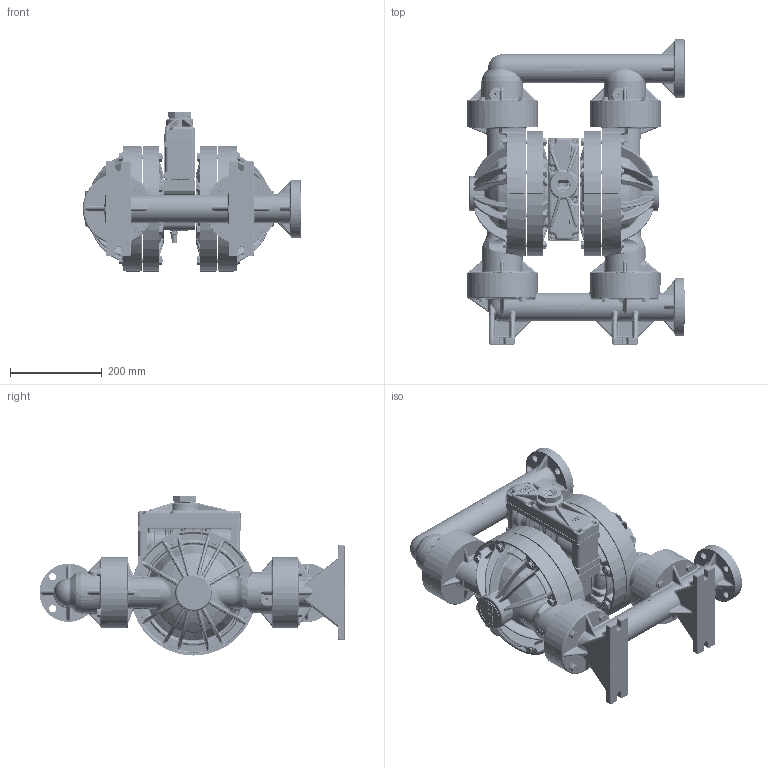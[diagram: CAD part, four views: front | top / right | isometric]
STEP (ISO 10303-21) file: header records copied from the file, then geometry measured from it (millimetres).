
FILE_DESCRIPTION((''),'2;1');
FILE_NAME('PS400_ADV_PLASTIC_POL_SW0001','2014-10-13T',('nathan.hale'),(''),'PRO/ENGINEER BY PARAMETRIC TECHNOLOGY CORPORATION, 2011180','PRO/ENGINEER BY PARAMETRIC TECHNOLOGY CORPORATION, 2011180','');
FILE_SCHEMA(('CONFIG_CONTROL_DESIGN'));
Products named in the file (1): PS400_ADV_PLASTIC_POL_SW0001
Bounding box: 476.35 x 665.12 x 348.69 mm (x, y, z)
Volume: 14194681.3 mm3; surface area: 2678985 mm2
Topology: 4 solids, 5 shells, 21607 faces, 53926 edges, 33184 vertices
Faces by surface type: plane 10027, bspline 4262, cylinder 2562, cone 1848, torus 1475, sphere 1127, extrusion 306
Entity records: 1021929 total; most frequent: CARTESIAN_POINT 538814, ORIENTED_EDGE 107750, DIRECTION 90038, EDGE_CURVE 53875, VERTEX_POINT 33184, AXIS2_PLACEMENT_3D 30513, VECTOR 29012, LINE 28706
